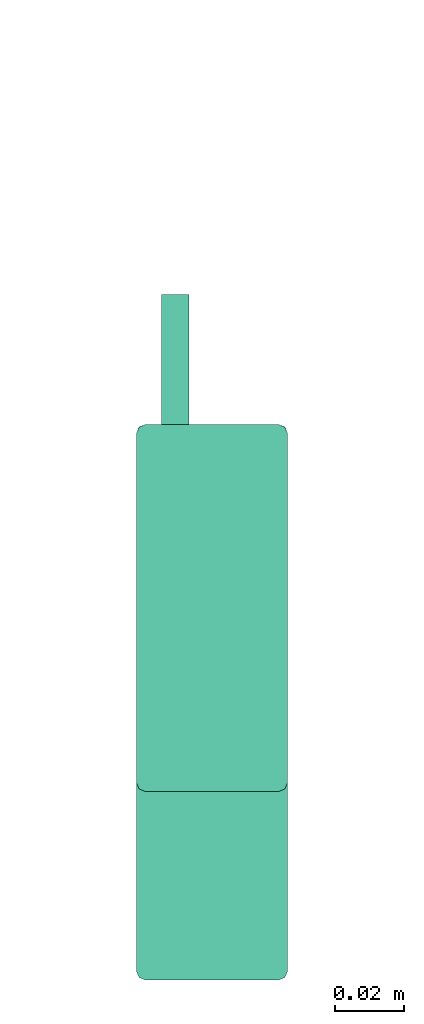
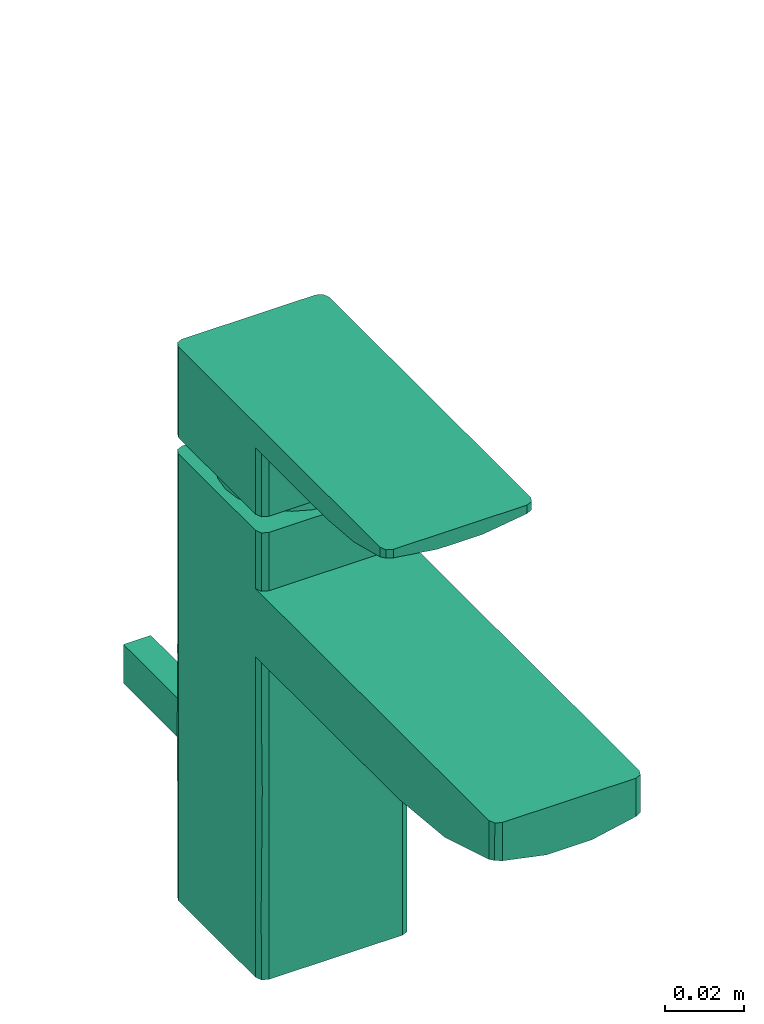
# One storey, part 2 of 2: 1 flow terminal.
"""IFC2X3 building model written with IfcOpenShell, lengths in millimetres."""

from ifc_helpers import new_model, entity, si_unit, converted_unit, derived_unit, direction, frame, origin, place, context, subcontext, project, spatial, faceted_brep, source, transform, mapped, material, type_object, type_shapes, element, save


model = new_model("IFC2X3")

# Units and contexts
model_context = context("Model", 3, precision=0.01, world=origin(), true_north=direction((6.12303176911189e-17, 1.0)))
body_context = subcontext(model_context, "Body", "Model", "MODEL_VIEW")
ifc_project = project(units=[si_unit("LENGTHUNIT", "METRE", prefix="MILLI"), si_unit("AREAUNIT", "SQUARE_METRE"), si_unit("VOLUMEUNIT", "CUBIC_METRE"), converted_unit("PLANEANGLEUNIT", "DEGREE", entity("IfcRatioMeasure", 0.0174532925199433), si_unit("PLANEANGLEUNIT", "RADIAN"), dimensions=[0, 0, 0, 0, 0, 0, 0]), si_unit("MASSUNIT", "GRAM", prefix="KILO"), derived_unit("MASSDENSITYUNIT", [(si_unit("MASSUNIT", "GRAM", prefix="KILO"), 1), (si_unit("LENGTHUNIT", "METRE"), -3)]), derived_unit("MOMENTOFINERTIAUNIT", [(si_unit("LENGTHUNIT", "METRE"), 4)]), si_unit("TIMEUNIT", "SECOND"), si_unit("FREQUENCYUNIT", "HERTZ"), si_unit("THERMODYNAMICTEMPERATUREUNIT", "DEGREE_CELSIUS"), derived_unit("THERMALTRANSMITTANCEUNIT", [(si_unit("MASSUNIT", "GRAM", prefix="KILO"), 1), (si_unit("THERMODYNAMICTEMPERATUREUNIT", "KELVIN"), -1), (si_unit("TIMEUNIT", "SECOND"), -3)]), derived_unit("VOLUMETRICFLOWRATEUNIT", [(si_unit("LENGTHUNIT", "METRE"), 3), (si_unit("TIMEUNIT", "SECOND"), -1)]), si_unit("ELECTRICCURRENTUNIT", "AMPERE"), si_unit("ELECTRICVOLTAGEUNIT", "VOLT"), si_unit("POWERUNIT", "WATT"), si_unit("FORCEUNIT", "NEWTON", prefix="KILO"), si_unit("ILLUMINANCEUNIT", "LUX"), si_unit("LUMINOUSFLUXUNIT", "LUMEN"), si_unit("LUMINOUSINTENSITYUNIT", "CANDELA"), derived_unit("USERDEFINED", [(si_unit("MASSUNIT", "GRAM", prefix="KILO"), -1), (si_unit("LENGTHUNIT", "METRE"), -2), (si_unit("TIMEUNIT", "SECOND"), 3), (si_unit("LUMINOUSFLUXUNIT", "LUMEN"), 1)]), derived_unit("LINEARVELOCITYUNIT", [(si_unit("LENGTHUNIT", "METRE"), 1), (si_unit("TIMEUNIT", "SECOND"), -1)]), si_unit("PRESSUREUNIT", "PASCAL"), derived_unit("USERDEFINED", [(si_unit("LENGTHUNIT", "METRE"), -2), (si_unit("MASSUNIT", "GRAM", prefix="KILO"), 1), (si_unit("TIMEUNIT", "SECOND"), -2)]), derived_unit("LINEARFORCEUNIT", [(si_unit("MASSUNIT", "GRAM", prefix="KILO"), 1), (si_unit("LENGTHUNIT", "METRE"), 1), (si_unit("TIMEUNIT", "SECOND"), -2), (si_unit("LENGTHUNIT", "METRE"), -1)]), derived_unit("PLANARFORCEUNIT", [(si_unit("MASSUNIT", "GRAM", prefix="KILO"), 1), (si_unit("LENGTHUNIT", "METRE"), 1), (si_unit("TIMEUNIT", "SECOND"), -2), (si_unit("LENGTHUNIT", "METRE"), -2)])], contexts=[model_context])

# Site, building, storey
site_placement = place(None, origin())
site = spatial("IfcSite", under=ifc_project, at=site_placement, Name="Default", CompositionType="ELEMENT")
building_placement = place(site_placement, origin())
building = spatial("IfcBuilding", under=site, at=building_placement, CompositionType="ELEMENT")
storey_placement = place(building_placement, origin())
storey = spatial("IfcBuildingStorey", under=building, at=storey_placement, Name="Level 1", CompositionType="ELEMENT", Elevation=0.0)

# Flow terminal
ifc_material = material(Name="Black")
distribution_element_type = type_object("IfcDistributionElementType", Name="FFAS1301-101440BF0_REVIT:Acacia E SH SL basin mixer_Matt Black", material=ifc_material)
shared_shape = source(origin(), body_context, "Body", "Brep", [
    faceted_brep([(6.57743038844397, -22.0, 95.7626945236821), (-6.57743038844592, -22.0, 95.7626945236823), (-19.5, -22.0, 98.2239049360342), (-19.5, -22.0, 84.4217309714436), (-19.5, -22.0, 70.6195564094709), (-19.5, -22.0, 49.1119524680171), (-19.5, -22.0, 36.8339642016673), (-19.5, -22.0, 24.5559759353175), (-19.5, -22.0, 0.0), (19.4999999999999, -22.0, 0.0), (19.4999999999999, -22.0, 13.802173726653), (19.4999999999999, -22.0, 27.6043474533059), (19.4999999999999, -22.0, 41.4065222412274), (19.4999999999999, -22.0, 55.2086959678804), (19.4999999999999, -22.0, 76.7163009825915), (19.4999999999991, -22.0, 98.2239049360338), (19.5, -22.0, 138.0), (-19.5, -22.0, 138.0), (-19.5, -22.0, 120.0), (19.4999999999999, -22.0, 120.0), (0.0, -22.0, 160.962760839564), (-19.5000000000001, -22.0, 162.921385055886), (-19.5, -22.0, 143.0), (19.5, -22.0, 143.0), (19.4999999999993, -22.0, 162.921385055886), (21.2484251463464, -21.2868994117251, 98.7558813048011), (21.3461670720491, -21.1857245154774, 78.2967388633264), (22.0, -19.5, 13.8021741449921), (22.0, -19.5, 27.6043482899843), (21.2677669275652, -21.2677669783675, 20.7032614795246), (21.2677669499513, -21.2677669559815, 38.2956879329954), (22.0, -19.5, 71.3956517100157), (21.3361299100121, -21.1966516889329, 62.0904782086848), (21.2677669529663, -21.2677669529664, 0.0), (21.2677669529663, -21.2677669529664, 120.0), (21.2677669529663, -21.2677669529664, 138.0), (21.2677669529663, -21.2677669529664, 143.0), (22.0, -19.5, 85.1978258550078), (22.0, -19.5, 0.0), (22.0, -19.5, 49.4999992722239), (22.0, -19.5, 120.0), (22.0, -19.5, 138.0), (22.0, -19.5, 99.0), (-21.2677669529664, -21.2677669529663, 0.0), (-21.3250901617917, -21.2085215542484, 20.7032620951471), (-21.2484251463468, -21.2868994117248, 98.7558813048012), (-21.2496983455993, -21.2856527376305, 77.5206438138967), (-21.1055475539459, -21.4163029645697, 58.5102880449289), (-22.0, -19.5, 71.3956512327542), (-22.0, -19.5, 57.5934777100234), (-22.0, -19.5, 13.8021743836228), (-22.0, -19.5, 0.0), (-22.0, -19.5, 138.0), (-22.0, -19.5, 120.0), (-21.2677669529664, -21.2677669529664, 120.0), (-21.2677669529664, -21.2677669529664, 138.0), (-21.2007290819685, -21.3323538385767, 42.9729592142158), (-22.0, -19.5, 27.6043479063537), (-22.0, -19.5, 85.1978256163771), (-22.0, -19.5, 43.7913033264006), (-22.0, -19.5, 99.0), (22.0, -56.0171086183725, 99.0), (22.0, -37.7585543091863, 99.0), (22.0, -28.6292316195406, 99.0), (22.0, -24.0646158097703, 99.0), (-22.0, -37.7585315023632, 99.0), (-22.0, -56.0171095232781, 99.0), (-22.0, -24.0646328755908, 99.0), (-7.44565170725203, -92.0, 95.8501010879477), (-22.0, -92.0, 99.0), (7.4456517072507, -92.0, 95.8501010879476), (-22.0, -28.6292657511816, 99.0), (22.0, -92.0, 99.0), (-6.47819386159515, -113.347478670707, 97.6132068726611), (-4.80963952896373, -111.411871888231, 97.1525244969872), (-2.55855296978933, -110.149892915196, 96.8385292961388), (-22.0, -115.185414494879, 101.257316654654), (0.0, -109.712505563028, 96.7271891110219), (-7.36528992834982, -118.275588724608, 98.672408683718), (-7.36649669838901, -115.732154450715, 98.1460443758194), (-19.5000000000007, -140.0, 108.15399342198), (2.55855296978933, -110.149892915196, 96.8385292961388), (22.0, -115.185414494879, 101.257316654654), (4.80963952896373, -111.411871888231, 97.1525244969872), (6.47819386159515, -113.347478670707, 97.6132068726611), (7.36649669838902, -115.732154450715, 98.1460443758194), (7.36528992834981, -118.275588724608, 98.672408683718), (-6.58448876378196, -140.0, 105.478393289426), (-6.47617672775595, -120.674281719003, 99.1296249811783), (-4.80602874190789, -122.635875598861, 99.4756849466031), (-2.55792381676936, -123.918316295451, 99.6885992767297), (0.0, -124.364630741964, 99.7602539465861), (-21.2806853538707, -139.254753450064, 108.424116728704), (-22.0, -137.500000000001, 107.94448328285), (6.60304870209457, -140.0, 105.480299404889), (2.55792381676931, -123.918316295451, 99.6885992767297), (4.80602874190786, -122.635875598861, 99.475684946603), (19.5, -140.0, 108.15399342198), (6.47617672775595, -120.674281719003, 99.1296249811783), (22.0, -137.5, 107.94448328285), (21.2816508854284, -139.253773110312, 108.424033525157), (-22.0, -137.5, 120.0), (-21.2677669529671, -139.267766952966, 120.0), (-19.5000000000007, -140.0, 120.0), (19.5, -140.0, 120.0), (21.2677669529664, -139.267766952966, 120.0), (22.0, -137.5, 120.0), (-22.0, 19.5, 138.0), (-22.0, 19.5, 124.19782548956), (-22.0, 19.5, 103.499999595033), (-22.0, 19.5, 86.2499997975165), (-22.0, 19.5, 69.0), (-22.0, 19.5, 51.7500002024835), (-22.0, 19.5, 34.5000004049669), (-22.0, 19.5, 13.8021745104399), (-22.0, 19.5, 0.0), (-22.0, -82.5, 171.0), (-22.0, 19.5, 171.0), (-22.0, 19.5, 163.462760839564), (-22.0, 19.5, 143.0), (-22.0, -19.5, 143.0), (-22.0, -19.5, 163.462760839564), (-22.0, -20.8505832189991, 163.462760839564), (-22.0, -22.2011664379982, 163.462760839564), (-22.0, -24.9023328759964, 163.462760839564), (-22.0, -30.3046657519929, 163.462760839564), (-22.0, -41.1093315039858, 163.462760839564), (-22.0, -55.7774207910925, 163.462760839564), (-22.0, -69.3306105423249, 164.607182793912), (-22.0, -82.5, 168.008040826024), (22.0, 19.5, 0.0), (22.0, 19.5, 13.8021736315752), (22.0, 19.5, 27.6043472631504), (22.0, 19.5, 41.3956514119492), (22.0, 19.5, 62.0934784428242), (22.0, 19.5, 82.7913028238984), (22.0, 19.5, 96.5934764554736), (22.0, 19.5, 110.39565273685), (22.0, 19.5, 124.197826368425), (22.0, 19.5, 138.0), (22.0, -82.5, 171.0), (22.0, -82.5, 168.008040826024), (22.0, -69.3306105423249, 164.607182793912), (22.0, -55.7774207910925, 163.462760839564), (22.0, -41.1093311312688, 163.462760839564), (22.0, -30.3046655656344, 163.462760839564), (22.0, -24.9023327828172, 163.462760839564), (22.0, -22.2011663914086, 163.462760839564), (22.0, -20.8505831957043, 163.462760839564), (22.0, -19.5, 163.462760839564), (22.0, -19.5, 143.0), (22.0, 19.5, 143.0), (22.0, 19.4999999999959, 163.462760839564), (22.0, 19.4999999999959, 171.0), (21.2677669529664, 21.2677669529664, 138.0), (19.5, 22.0, 138.0), (13.7885822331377, 13.7885822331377, 138.0), (9.75000000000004, 16.8874953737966, 138.0), (5.04697137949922, 18.8355536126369, 138.0), (0.0, 19.5000000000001, 138.0), (-19.5, 22.0, 138.0), (-5.04697137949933, 18.8355536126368, 138.0), (-9.7500000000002, 16.8874953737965, 138.0), (-13.7885822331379, 13.7885822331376, 138.0), (-21.2677669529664, 21.2677669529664, 138.0), (-16.8874953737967, 9.74999999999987, 138.0), (-18.8355536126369, 5.04697137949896, 138.0), (-19.5, 0.0, 138.0), (-18.8355536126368, -5.04697137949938, 138.0), (-16.8874953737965, -9.75000000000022, 138.0), (-13.7885822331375, -13.7885822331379, 138.0), (-9.7499999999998, -16.8874953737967, 138.0), (-5.04697137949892, -18.8355536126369, 138.0), (0.0, -19.5, 138.0), (5.04697137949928, -18.8355536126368, 138.0), (9.75000000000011, -16.8874953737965, 138.0), (13.7885822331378, -13.7885822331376, 138.0), (19.5000000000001, 0.0, 138.0), (18.8355536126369, -5.0469713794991, 138.0), (16.8874953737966, -9.74999999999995, 138.0), (16.8874953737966, 9.75000000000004, 138.0), (18.8355536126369, 5.04697137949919, 138.0), (-21.2677669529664, 21.2677669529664, 0.0), (-19.5, 22.0, 0.0), (19.5, 22.0, 0.0), (21.2677669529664, 21.2677669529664, 0.0), (-6.65799145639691, 22.0, 51.9931021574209), (19.5, 22.0, 124.197825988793), (19.5, 22.0, 103.499999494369), (19.5, 22.0, 86.2499982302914), (19.5, 22.0, 68.9999989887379), (19.5, 22.0, 51.7499997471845), (19.5, 22.0, 34.500000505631), (19.5, 22.0, 13.8021740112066), (-6.65799145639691, 22.0, 39.9931021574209), (-14.6579914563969, 22.0, 39.9931021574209), (-14.6579914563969, 22.0, 51.9931021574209), (-19.5, 22.0, 13.8021738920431), (-19.5, 22.0, 27.6043482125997), (-19.5, 22.0, 41.3956520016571), (-19.5, 22.0, 62.0934777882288), (-19.5, 22.0, 82.7913035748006), (-19.5, 22.0, 96.5934778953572), (-19.5, 22.0, 110.3956517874), (-19.5, 22.0, 124.197825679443), (-19.5, 22.0, 162.921385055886), (-19.5, 22.0, 171.0), (19.5, 22.0, 171.0), (19.5000000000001, 22.0, 162.921385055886), (19.5, 22.0, 143.0), (-19.5, 22.0, 143.0), (-21.2677669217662, 21.2677669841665, 20.7032627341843), (-21.3900692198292, 21.1363490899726, 43.125002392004), (-21.2677669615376, 21.2677669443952, 117.296739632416), (-21.3292588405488, 21.2040575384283, 62.9976828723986), (-21.2677669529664, 21.2677669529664, 171.0), (-21.3505236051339, 21.1809409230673, 77.6250015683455), (-21.145426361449, 21.382172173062, 102.117550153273), (-21.2677669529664, 21.2677669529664, 143.0), (-21.2677669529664, -21.2677669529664, 143.0), (21.2677669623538, 21.2677669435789, 117.296739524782), (21.2677669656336, 21.2677669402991, 20.7032615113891), (21.2677669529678, 21.2677669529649, 171.0), (21.1363491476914, 21.3900691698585, 43.1250005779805), (21.2040575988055, 21.3292587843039, 62.9976815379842), (21.1809409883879, 21.3505235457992, 77.6250005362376), (21.3821722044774, 21.1454263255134, 102.117549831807), (21.2677669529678, 21.2677669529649, 143.0), (0.0, -117.318751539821, 97.0301139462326), (0.0, -124.606495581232, 98.7126222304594), (-6.47738647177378, -120.962623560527, 97.871368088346), (-6.47738647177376, -113.674879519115, 96.1888598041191), (0.0, -110.031007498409, 95.3476056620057), (6.47738647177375, -120.962623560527, 97.871368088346), (6.47738647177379, -113.674879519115, 96.1888598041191), (12.318684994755, 12.3186849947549, 143.0), (15.0872462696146, 8.71062569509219, 143.0), (16.8276366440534, 4.5089516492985, 143.0), (17.4212513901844, 0.0, 143.0), (16.8276366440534, -4.50895164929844, 143.0), (15.0872462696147, -8.71062569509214, 143.0), (12.318684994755, -12.3186849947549, 143.0), (8.71062569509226, -15.0872462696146, 143.0), (4.50895164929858, -16.8276366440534, 143.0), (0.0, -17.4212513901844, 143.0), (-4.50895164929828, -16.8276366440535, 143.0), (-8.710625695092, -15.0872462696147, 143.0), (-12.3186849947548, -12.3186849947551, 143.0), (-15.0872462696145, -8.71062569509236, 143.0), (-16.8276366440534, -4.50895164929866, 143.0), (-17.4212513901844, 0.0, 143.0), (-16.8276366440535, 4.5089516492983, 143.0), (-15.0872462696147, 8.71062569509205, 143.0), (-12.3186849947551, 12.3186849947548, 143.0), (0.0, 17.4212513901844, 143.0), (-4.50895164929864, 16.8276366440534, 143.0), (-8.71062569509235, 15.0872462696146, 143.0), (8.71062569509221, 15.0872462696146, 143.0), (4.50895164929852, 16.8276366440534, 143.0), (-21.2586231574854, 21.2768636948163, 163.295069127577), (-21.2579393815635, -21.277540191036, 163.294933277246), (-21.4865459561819, -20.7299334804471, 163.346635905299), (21.2579393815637, -21.2775401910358, 163.294933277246), (21.4865459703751, -20.7299334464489, 163.346635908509), (21.2579344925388, 21.2775450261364, 163.29491635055), (19.5, -85.0, 171.0), (21.2677669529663, -84.2677669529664, 171.0), (-21.2677669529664, -84.2677669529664, 171.0), (-19.5, -85.0, 171.0), (-21.2840980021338, -84.2512836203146, 168.47121602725), (-19.5, -85.0, 168.350013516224), (-6.53688578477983, -85.0, 166.487997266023), (6.55003772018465, -85.0, 166.488936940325), (19.5, -85.0, 168.350013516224), (21.2849373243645, -84.2504281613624, 168.471094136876), (0.0068178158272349, -71.7520730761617, 162.50836299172), (0.0, -55.7774207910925, 160.962760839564), (-11.1949079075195, -72.7383063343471, 163.362206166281), (-12.9793431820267, -55.7774207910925, 162.437686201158), (12.9793430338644, -55.7774207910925, 162.437686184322), (-3.64332454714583, -18.3162287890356, 140.458647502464), (-7.12906184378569, 17.2110771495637, 140.570058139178), (-3.62527419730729, 18.2254836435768, 140.681192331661), (-17.2110773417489, 7.12906142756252, 140.570058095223), (-18.4697609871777, 2.4315901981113, 140.570057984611), (-7.12906182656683, -17.211077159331, 140.570058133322), (-14.7794872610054, -11.3406990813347, 140.570058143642), (-14.7794872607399, 11.3406990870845, 140.57005813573), (-11.3406995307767, 14.779486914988, 140.570058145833), (-17.2110773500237, -7.12906138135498, 140.570058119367), (-18.4697609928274, -2.43159026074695, 140.570057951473), (-11.3406995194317, -14.7794869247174, 140.570058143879), (0.0, -18.6291358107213, 140.570058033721), (0.0, 18.6291358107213, 140.570058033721), (3.64332453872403, 18.3162287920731, 140.458647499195), (11.3406995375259, -14.7794869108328, 140.57005814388), (7.12906186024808, -17.2110771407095, 140.570058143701), (14.7794872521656, -11.3406991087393, 140.570058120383), (7.12906180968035, 17.2110771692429, 140.57005812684), (14.7794872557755, 11.3406990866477, 140.570058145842), (18.469760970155, -2.43159020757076, 140.570058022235), (17.2110773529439, 7.12906135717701, 140.570058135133), (18.4697609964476, 2.43159031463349, 140.570057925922), (11.3406995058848, 14.7794869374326, 140.570058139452), (17.2110773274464, -7.12906149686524, 140.570058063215), (3.62527420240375, -18.2254836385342, 140.681192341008), (-14.6579914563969, 60.0, 39.9931021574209), (-14.6579914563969, 60.0, 51.9931021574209), (-6.65799145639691, 60.0, 51.9931021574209), (-6.65799145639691, 60.0, 39.9931021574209)], [[[0, 1, 2, 3, 4, 5, 6, 7, 8, 9, 10, 11, 12, 13, 14, 15]], [[16, 17, 18, 19]], [[20, 21, 22, 23, 24]], [[25, 15, 26]], [[27, 28, 29]], [[26, 15, 14]], [[29, 28, 30]], [[31, 26, 32]], [[30, 13, 12, 11]], [[10, 9, 33]], [[16, 19, 34, 35]], [[36, 24, 23]], [[25, 26, 37]], [[29, 10, 33]], [[11, 29, 30]], [[14, 32, 26]], [[33, 38, 27]], [[28, 39, 30]], [[34, 40, 41, 35]], [[33, 27, 29]], [[30, 39, 32]], [[37, 26, 31]], [[37, 42, 25]], [[32, 14, 13]], [[30, 32, 13]], [[39, 31, 32]], [[29, 11, 10]], [[43, 8, 44]], [[3, 2, 45]], [[45, 46, 3]], [[44, 8, 7, 6]], [[47, 48, 49]], [[50, 51, 43]], [[52, 53, 54, 55]], [[48, 47, 46]], [[44, 56, 57]], [[6, 5, 56]], [[45, 58, 46]], [[4, 3, 46]], [[57, 50, 44]], [[56, 47, 49]], [[43, 44, 50]], [[6, 56, 44]], [[56, 49, 59, 57]], [[56, 5, 47]], [[5, 4, 47]], [[46, 47, 4]], [[58, 45, 60]], [[58, 48, 46]], [[61, 0, 62]], [[63, 62, 15, 64]], [[65, 1, 66]], [[60, 45, 67]], [[68, 69, 66]], [[66, 1, 68]], [[68, 1, 0, 70]], [[25, 42, 64]], [[2, 67, 45]], [[65, 71, 67, 2]], [[72, 70, 61]], [[65, 2, 1]], [[61, 70, 0]], [[0, 15, 62]], [[15, 25, 64]], [[73, 68, 74]], [[68, 75, 74]], [[76, 69, 68]], [[77, 75, 68]], [[78, 76, 79]], [[68, 73, 79]], [[78, 80, 76]], [[76, 68, 79]], [[70, 81, 77]], [[70, 72, 82]], [[83, 81, 70]], [[68, 70, 77]], [[84, 70, 85]], [[85, 70, 82]], [[85, 82, 86]], [[83, 70, 84]], [[87, 88, 89]], [[87, 90, 91]], [[90, 87, 89]], [[80, 92, 93]], [[80, 88, 87]], [[80, 78, 88]], [[80, 93, 76]], [[94, 87, 91]], [[94, 95, 96]], [[97, 98, 86]], [[98, 94, 96]], [[97, 82, 99]], [[97, 99, 100]], [[94, 98, 97]], [[94, 91, 95]], [[86, 82, 97]], [[54, 53, 101, 102, 103, 104, 105, 106, 40, 34, 19, 18]], [[52, 107, 108, 109, 110, 111, 112, 113, 114, 115, 51, 50, 57, 59, 49, 48, 58, 60, 67, 71, 65, 66, 69, 76, 93, 101, 53]], [[116, 117, 118, 119, 120, 121, 122, 123, 124, 125, 126, 127, 128, 129]], [[101, 93, 92]], [[101, 92, 102]], [[92, 103, 102]], [[103, 92, 80]], [[104, 103, 80, 87, 94, 97]], [[105, 104, 100]], [[100, 104, 97]], [[100, 99, 106]], [[100, 106, 105]], [[40, 106, 99, 82, 72, 61, 62, 63, 64, 42, 37, 31, 39, 28, 27, 38, 130, 131, 132, 133, 134, 135, 136, 137, 138, 139, 41]], [[140, 141, 142, 143, 144, 145, 146, 147, 148, 149, 150, 151, 152, 153]], [[154, 155, 139]], [[139, 155, 156]], [[157, 156, 155]], [[158, 157, 155]], [[159, 158, 155]], [[155, 160, 159]], [[161, 159, 160]], [[162, 161, 160]], [[162, 160, 163]], [[107, 163, 160]], [[160, 164, 107]], [[165, 163, 107]], [[166, 165, 107]], [[166, 107, 167]], [[167, 107, 52]], [[168, 167, 52]], [[169, 168, 52]], [[52, 170, 169]], [[17, 170, 52]], [[17, 52, 55]], [[171, 170, 17]], [[171, 17, 172]], [[173, 172, 17]], [[173, 17, 16]], [[16, 174, 173]], [[175, 174, 16]], [[176, 175, 16]], [[16, 41, 176]], [[16, 35, 41]], [[177, 41, 139]], [[41, 177, 178]], [[178, 179, 41]], [[179, 176, 41]], [[156, 180, 139]], [[180, 181, 139]], [[139, 181, 177]], [[115, 182, 183, 184, 185, 130, 38, 33, 9, 8, 43, 51]], [[155, 186, 160]], [[186, 155, 187]], [[186, 187, 188]], [[186, 188, 189]], [[186, 189, 190]], [[186, 190, 191]], [[186, 191, 192]], [[186, 192, 193]], [[186, 193, 184]], [[184, 194, 186]], [[194, 184, 183]], [[183, 195, 194]], [[195, 183, 196]], [[196, 183, 197]], [[196, 197, 198]], [[196, 198, 199]], [[196, 199, 200]], [[196, 200, 201]], [[196, 201, 202]], [[196, 202, 203]], [[196, 203, 204]], [[196, 204, 160]], [[196, 160, 186]], [[205, 206, 207, 208, 209, 210]], [[198, 211, 212]], [[212, 211, 113]], [[204, 213, 164]], [[200, 212, 214]], [[108, 107, 164]], [[182, 115, 114]], [[215, 118, 117]], [[200, 214, 216]], [[216, 217, 201]], [[182, 211, 197]], [[204, 203, 213]], [[109, 213, 217]], [[211, 182, 114]], [[213, 203, 217]], [[164, 160, 204]], [[197, 183, 182]], [[218, 205, 210]], [[109, 108, 213]], [[164, 213, 108]], [[197, 211, 198]], [[113, 211, 114]], [[217, 203, 202, 201]], [[217, 216, 110]], [[110, 216, 111]], [[110, 109, 217]], [[214, 111, 216]], [[216, 201, 200]], [[212, 113, 112]], [[212, 200, 199, 198]], [[112, 111, 214]], [[214, 212, 112]], [[54, 18, 17, 55]], [[21, 219, 22]], [[138, 137, 220]], [[132, 131, 185, 221]], [[131, 130, 185]], [[154, 139, 138]], [[153, 152, 222]], [[134, 223, 224]], [[134, 224, 225]], [[225, 226, 135]], [[187, 155, 154]], [[185, 184, 193]], [[208, 227, 209]], [[138, 220, 154]], [[188, 220, 226]], [[221, 223, 132]], [[220, 137, 226]], [[188, 187, 220]], [[221, 185, 193, 192]], [[154, 220, 187]], [[221, 192, 223]], [[226, 137, 136, 135]], [[226, 225, 189]], [[189, 225, 190]], [[189, 188, 226]], [[224, 190, 225]], [[225, 135, 134]], [[223, 192, 191]], [[223, 134, 133, 132]], [[191, 190, 224]], [[224, 223, 191]], [[228, 229, 230]], [[230, 231, 228]], [[231, 232, 228]], [[228, 233, 229]], [[232, 234, 228]], [[233, 228, 234]], [[75, 77, 232]], [[75, 232, 231]], [[75, 231, 74]], [[73, 74, 231]], [[79, 73, 231]], [[231, 78, 79]], [[90, 230, 229]], [[90, 229, 91]], [[78, 230, 88]], [[90, 89, 230]], [[230, 89, 88]], [[230, 78, 231]], [[95, 91, 229]], [[95, 229, 233]], [[96, 95, 233]], [[98, 96, 233]], [[233, 86, 98]], [[233, 234, 86]], [[81, 234, 232]], [[81, 232, 77]], [[85, 234, 84]], [[84, 234, 83]], [[234, 81, 83]], [[234, 85, 86]], [[227, 151, 209]], [[209, 151, 235]], [[236, 235, 151]], [[237, 236, 151]], [[238, 237, 151]], [[151, 150, 238]], [[239, 238, 150]], [[240, 239, 150]], [[240, 150, 241]], [[23, 241, 150]], [[150, 36, 23]], [[242, 241, 23]], [[243, 242, 23]], [[243, 23, 244]], [[244, 23, 22]], [[245, 244, 22]], [[246, 245, 22]], [[22, 247, 246]], [[120, 247, 22]], [[120, 22, 219]], [[248, 247, 120]], [[248, 120, 249]], [[250, 249, 120]], [[250, 120, 119]], [[119, 251, 250]], [[252, 251, 119]], [[253, 252, 119]], [[119, 210, 253]], [[119, 218, 210]], [[254, 210, 209]], [[210, 254, 255]], [[255, 256, 210]], [[256, 253, 210]], [[235, 257, 209]], [[257, 258, 209]], [[209, 258, 254]], [[259, 205, 218]], [[119, 118, 259]], [[119, 259, 218]], [[120, 260, 261, 121]], [[260, 120, 219]], [[219, 21, 260]], [[262, 24, 36]], [[150, 149, 263, 262]], [[150, 262, 36]], [[264, 152, 151]], [[264, 151, 227]], [[227, 208, 264]], [[265, 266, 140, 153, 222, 207, 206, 215, 117, 116, 267, 268]], [[206, 205, 259]], [[206, 259, 215]], [[118, 215, 259]], [[116, 129, 269]], [[116, 269, 267]], [[269, 268, 267]], [[268, 269, 270]], [[265, 268, 270, 271, 272, 273]], [[266, 265, 274]], [[274, 265, 273]], [[274, 141, 140]], [[274, 140, 266]], [[222, 152, 264]], [[264, 208, 207]], [[264, 207, 222]], [[142, 273, 272]], [[275, 272, 271]], [[142, 272, 275]], [[129, 270, 269]], [[276, 277, 278]], [[271, 270, 277]], [[127, 278, 128]], [[273, 141, 274]], [[276, 279, 275]], [[279, 143, 142]], [[142, 275, 279]], [[129, 277, 270]], [[277, 128, 278]], [[277, 275, 271]], [[129, 128, 277]], [[142, 141, 273]], [[276, 275, 277]], [[20, 24, 145]], [[144, 143, 279, 276, 20, 145]], [[125, 21, 20]], [[262, 147, 24]], [[125, 124, 123, 21]], [[263, 149, 148, 147, 262]], [[126, 125, 20, 276, 278, 127]], [[261, 260, 123, 122, 121]], [[146, 145, 24, 147]], [[21, 123, 260]], [[244, 245, 280]], [[281, 255, 282]], [[283, 284, 251]], [[245, 285, 280]], [[247, 248, 286]], [[287, 288, 163]], [[285, 245, 246]], [[289, 290, 168]], [[247, 291, 246]], [[287, 253, 288]], [[289, 248, 249]], [[280, 173, 292]], [[172, 280, 285]], [[250, 290, 249]], [[283, 287, 165]], [[291, 285, 246]], [[167, 168, 290]], [[286, 291, 247]], [[291, 171, 285]], [[290, 289, 249]], [[286, 289, 169]], [[170, 291, 286]], [[289, 286, 248]], [[284, 290, 250]], [[167, 284, 166]], [[282, 293, 159]], [[252, 283, 251]], [[287, 252, 253]], [[284, 283, 166]], [[254, 293, 282]], [[284, 167, 290]], [[288, 256, 281]], [[288, 253, 256]], [[254, 282, 255]], [[281, 256, 255]], [[172, 285, 171]], [[283, 165, 166]], [[287, 163, 165]], [[171, 291, 170]], [[161, 162, 281]], [[163, 288, 162]], [[283, 252, 287]], [[161, 282, 159]], [[173, 280, 172]], [[169, 289, 168]], [[161, 281, 282]], [[170, 286, 169]], [[280, 292, 244]], [[284, 250, 251]], [[288, 281, 162]], [[254, 258, 294]], [[295, 242, 296]], [[297, 241, 295]], [[258, 298, 294]], [[299, 235, 236]], [[177, 300, 178]], [[298, 258, 257]], [[301, 302, 181]], [[257, 235, 303]], [[295, 296, 175]], [[301, 236, 237]], [[294, 159, 293]], [[158, 294, 298]], [[304, 240, 297]], [[304, 297, 179]], [[158, 298, 157]], [[177, 181, 302]], [[157, 303, 156]], [[303, 157, 298]], [[180, 301, 181]], [[299, 301, 180]], [[156, 303, 299]], [[156, 299, 180]], [[300, 302, 238]], [[300, 238, 239]], [[305, 292, 173]], [[240, 304, 239]], [[297, 240, 241]], [[300, 304, 178]], [[296, 242, 243]], [[304, 300, 239]], [[296, 243, 305]], [[295, 241, 242]], [[244, 305, 243]], [[305, 244, 292]], [[303, 298, 257]], [[304, 179, 178]], [[297, 176, 179]], [[299, 303, 235]], [[174, 175, 296]], [[176, 295, 175]], [[238, 302, 237]], [[174, 305, 173]], [[159, 294, 158]], [[302, 301, 237]], [[174, 296, 305]], [[301, 299, 236]], [[294, 293, 254]], [[177, 302, 300]], [[297, 295, 176]], [[306, 307, 308, 309]], [[196, 186, 308, 307]], [[195, 196, 307, 306]], [[194, 195, 306, 309]], [[186, 194, 309, 308]]]),
])
type_shapes(distribution_element_type, [shared_shape])
flow_terminal_placement = place(storey_placement, frame((-1807.79293155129, -3765.16617023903, 0.0)))
element("IfcFlowTerminal", 1, at=flow_terminal_placement, inside=storey, type_object=distribution_element_type, material=ifc_material, Name="FFAS1301-101440BF0_REVIT:Acacia E SH SL basin mixer_Matt Black", ObjectType="FFAS1301-101440BF0_REVIT:Acacia E SH SL basin mixer_Matt Black", context=body_context, shape_type="MappedRepresentation", body=[
    mapped(shared_shape, transform((0.0, 0.0, 0.0), scale=1.0)),
])

save(model, "model.ifc")
